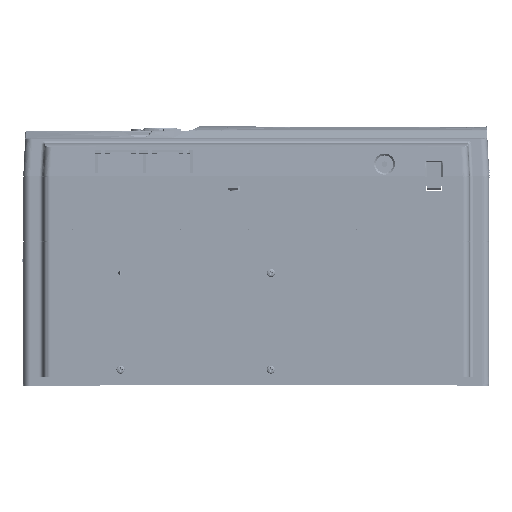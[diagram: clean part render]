
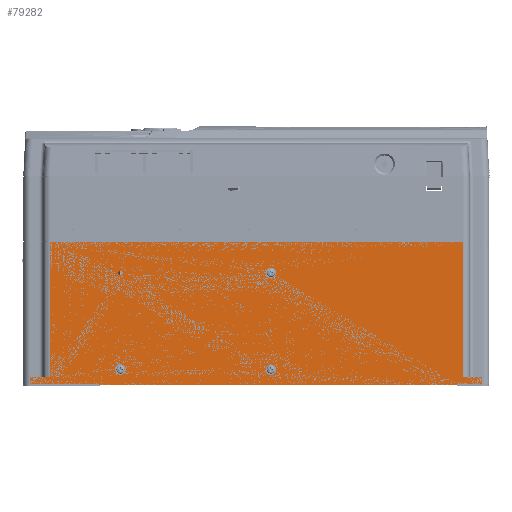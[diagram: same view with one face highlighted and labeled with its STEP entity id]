
A CAD part, left-side view. The second image highlights one B-rep face of the part: STEP entity #79282.
In plain terms, the highlighted planar face has unit normal (-1, 0, 0).
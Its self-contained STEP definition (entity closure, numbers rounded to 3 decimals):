
#76411 = VERTEX_POINT('',#76412);
#76412 = CARTESIAN_POINT('',(-125.,-61.,-194.));
#76419 = EDGE_CURVE('',#76411,#76420,#76422,.T.);
#76420 = VERTEX_POINT('',#76421);
#76421 = CARTESIAN_POINT('',(-125.,-61.,-134.95));
#76422 = LINE('',#76423,#76424);
#76423 = CARTESIAN_POINT('',(-125.,-61.,-194.));
#76424 = VECTOR('',#76425,1.);
#76425 = DIRECTION('',(0.,0.,1.));
#77268 = VERTEX_POINT('',#77269);
#77269 = CARTESIAN_POINT('',(-125.,-61.,172.55));
#77275 = EDGE_CURVE('',#77268,#77276,#77278,.T.);
#77276 = VERTEX_POINT('',#77277);
#77277 = CARTESIAN_POINT('',(-125.,-61.,194.));
#77278 = LINE('',#77279,#77280);
#77279 = CARTESIAN_POINT('',(-125.,-61.,172.55));
#77280 = VECTOR('',#77281,1.);
#77281 = DIRECTION('',(0.,0.,1.));
#79207 = EDGE_CURVE('',#79208,#79210,#79212,.T.);
#79208 = VERTEX_POINT('',#79209);
#79209 = CARTESIAN_POINT('',(-125.,-48.8,-119.));
#79210 = VERTEX_POINT('',#79211);
#79211 = CARTESIAN_POINT('',(-125.,-48.8,-114.));
#79212 = CIRCLE('',#79213,2.5);
#79213 = AXIS2_PLACEMENT_3D('',#79214,#79215,#79216);
#79214 = CARTESIAN_POINT('',(-125.,-48.8,-116.5));
#79215 = DIRECTION('',(1.,0.,0.));
#79216 = DIRECTION('',(0.,0.,-1.));
#79282 = ADVANCED_FACE('',(#79283,#79371,#79391,#79401,#79421),#79441,
  .T.);
#79283 = FACE_BOUND('',#79284,.F.);
#79284 = EDGE_LOOP('',(#79285,#79295,#79301,#79302,#79310,#79318,#79326,
    #79334,#79342,#79350,#79356,#79357,#79365));
#79285 = ORIENTED_EDGE('',*,*,#79286,.T.);
#79286 = EDGE_CURVE('',#79287,#79289,#79291,.T.);
#79287 = VERTEX_POINT('',#79288);
#79288 = CARTESIAN_POINT('',(-125.,-62.3,172.05));
#79289 = VERTEX_POINT('',#79290);
#79290 = CARTESIAN_POINT('',(-125.,-62.3,-134.95));
#79291 = LINE('',#79292,#79293);
#79292 = CARTESIAN_POINT('',(-125.,-62.3,172.05));
#79293 = VECTOR('',#79294,1.);
#79294 = DIRECTION('',(0.,0.,-1.));
#79295 = ORIENTED_EDGE('',*,*,#79296,.T.);
#79296 = EDGE_CURVE('',#79289,#76420,#79297,.T.);
#79297 = LINE('',#79298,#79299);
#79298 = CARTESIAN_POINT('',(-125.,-62.3,-134.95));
#79299 = VECTOR('',#79300,1.);
#79300 = DIRECTION('',(0.,1.,0.));
#79301 = ORIENTED_EDGE('',*,*,#76419,.F.);
#79302 = ORIENTED_EDGE('',*,*,#79303,.F.);
#79303 = EDGE_CURVE('',#79304,#76411,#79306,.T.);
#79304 = VERTEX_POINT('',#79305);
#79305 = CARTESIAN_POINT('',(-125.,-55.,-194.));
#79306 = LINE('',#79307,#79308);
#79307 = CARTESIAN_POINT('',(-125.,-55.,-194.));
#79308 = VECTOR('',#79309,1.);
#79309 = DIRECTION('',(0.,-1.,0.));
#79310 = ORIENTED_EDGE('',*,*,#79311,.F.);
#79311 = EDGE_CURVE('',#79312,#79304,#79314,.T.);
#79312 = VERTEX_POINT('',#79313);
#79313 = CARTESIAN_POINT('',(-125.,-55.,-177.));
#79314 = LINE('',#79315,#79316);
#79315 = CARTESIAN_POINT('',(-125.,-55.,-177.));
#79316 = VECTOR('',#79317,1.);
#79317 = DIRECTION('',(0.,0.,-1.));
#79318 = ORIENTED_EDGE('',*,*,#79319,.F.);
#79319 = EDGE_CURVE('',#79320,#79312,#79322,.T.);
#79320 = VERTEX_POINT('',#79321);
#79321 = CARTESIAN_POINT('',(-125.,61.,-177.));
#79322 = LINE('',#79323,#79324);
#79323 = CARTESIAN_POINT('',(-125.,61.,-177.));
#79324 = VECTOR('',#79325,1.);
#79325 = DIRECTION('',(0.,-1.,0.));
#79326 = ORIENTED_EDGE('',*,*,#79327,.T.);
#79327 = EDGE_CURVE('',#79320,#79328,#79330,.T.);
#79328 = VERTEX_POINT('',#79329);
#79329 = CARTESIAN_POINT('',(-125.,61.,177.));
#79330 = LINE('',#79331,#79332);
#79331 = CARTESIAN_POINT('',(-125.,61.,-177.));
#79332 = VECTOR('',#79333,1.);
#79333 = DIRECTION('',(0.,0.,1.));
#79334 = ORIENTED_EDGE('',*,*,#79335,.F.);
#79335 = EDGE_CURVE('',#79336,#79328,#79338,.T.);
#79336 = VERTEX_POINT('',#79337);
#79337 = CARTESIAN_POINT('',(-125.,-55.,177.));
#79338 = LINE('',#79339,#79340);
#79339 = CARTESIAN_POINT('',(-125.,-55.,177.));
#79340 = VECTOR('',#79341,1.);
#79341 = DIRECTION('',(0.,1.,0.));
#79342 = ORIENTED_EDGE('',*,*,#79343,.F.);
#79343 = EDGE_CURVE('',#79344,#79336,#79346,.T.);
#79344 = VERTEX_POINT('',#79345);
#79345 = CARTESIAN_POINT('',(-125.,-55.,194.));
#79346 = LINE('',#79347,#79348);
#79347 = CARTESIAN_POINT('',(-125.,-55.,194.));
#79348 = VECTOR('',#79349,1.);
#79349 = DIRECTION('',(0.,0.,-1.));
#79350 = ORIENTED_EDGE('',*,*,#79351,.T.);
#79351 = EDGE_CURVE('',#79344,#77276,#79352,.T.);
#79352 = LINE('',#79353,#79354);
#79353 = CARTESIAN_POINT('',(-125.,-55.,194.));
#79354 = VECTOR('',#79355,1.);
#79355 = DIRECTION('',(0.,-1.,0.));
#79356 = ORIENTED_EDGE('',*,*,#77275,.F.);
#79357 = ORIENTED_EDGE('',*,*,#79358,.T.);
#79358 = EDGE_CURVE('',#77268,#79359,#79361,.T.);
#79359 = VERTEX_POINT('',#79360);
#79360 = CARTESIAN_POINT('',(-125.,-61.8,172.55));
#79361 = LINE('',#79362,#79363);
#79362 = CARTESIAN_POINT('',(-125.,-61.,172.55));
#79363 = VECTOR('',#79364,1.);
#79364 = DIRECTION('',(0.,-1.,0.));
#79365 = ORIENTED_EDGE('',*,*,#79366,.F.);
#79366 = EDGE_CURVE('',#79287,#79359,#79367,.T.);
#79367 = LINE('',#79368,#79369);
#79368 = CARTESIAN_POINT('',(-125.,-62.3,172.05));
#79369 = VECTOR('',#79370,1.);
#79370 = DIRECTION('',(0.,0.707,0.707));
#79371 = FACE_BOUND('',#79372,.F.);
#79372 = EDGE_LOOP('',(#79373,#79384));
#79373 = ORIENTED_EDGE('',*,*,#79374,.F.);
#79374 = EDGE_CURVE('',#79375,#79377,#79379,.T.);
#79375 = VERTEX_POINT('',#79376);
#79376 = CARTESIAN_POINT('',(-125.,34.2,-114.5));
#79377 = VERTEX_POINT('',#79378);
#79378 = CARTESIAN_POINT('',(-125.,34.2,-118.5));
#79379 = CIRCLE('',#79380,2.);
#79380 = AXIS2_PLACEMENT_3D('',#79381,#79382,#79383);
#79381 = CARTESIAN_POINT('',(-125.,34.2,-116.5));
#79382 = DIRECTION('',(1.,0.,-0.));
#79383 = DIRECTION('',(0.,0.,1.));
#79384 = ORIENTED_EDGE('',*,*,#79385,.F.);
#79385 = EDGE_CURVE('',#79377,#79375,#79386,.T.);
#79386 = CIRCLE('',#79387,2.);
#79387 = AXIS2_PLACEMENT_3D('',#79388,#79389,#79390);
#79388 = CARTESIAN_POINT('',(-125.,34.2,-116.5));
#79389 = DIRECTION('',(1.,0.,0.));
#79390 = DIRECTION('',(0.,0.,-1.));
#79391 = FACE_BOUND('',#79392,.F.);
#79392 = EDGE_LOOP('',(#79393,#79394));
#79393 = ORIENTED_EDGE('',*,*,#79207,.F.);
#79394 = ORIENTED_EDGE('',*,*,#79395,.F.);
#79395 = EDGE_CURVE('',#79210,#79208,#79396,.T.);
#79396 = CIRCLE('',#79397,2.5);
#79397 = AXIS2_PLACEMENT_3D('',#79398,#79399,#79400);
#79398 = CARTESIAN_POINT('',(-125.,-48.8,-116.5));
#79399 = DIRECTION('',(1.,0.,-0.));
#79400 = DIRECTION('',(0.,0.,1.));
#79401 = FACE_BOUND('',#79402,.F.);
#79402 = EDGE_LOOP('',(#79403,#79414));
#79403 = ORIENTED_EDGE('',*,*,#79404,.F.);
#79404 = EDGE_CURVE('',#79405,#79407,#79409,.T.);
#79405 = VERTEX_POINT('',#79406);
#79406 = CARTESIAN_POINT('',(-125.,-48.8,10.));
#79407 = VERTEX_POINT('',#79408);
#79408 = CARTESIAN_POINT('',(-125.,-48.8,15.));
#79409 = CIRCLE('',#79410,2.5);
#79410 = AXIS2_PLACEMENT_3D('',#79411,#79412,#79413);
#79411 = CARTESIAN_POINT('',(-125.,-48.8,12.5));
#79412 = DIRECTION('',(1.,0.,0.));
#79413 = DIRECTION('',(0.,0.,-1.));
#79414 = ORIENTED_EDGE('',*,*,#79415,.F.);
#79415 = EDGE_CURVE('',#79407,#79405,#79416,.T.);
#79416 = CIRCLE('',#79417,2.5);
#79417 = AXIS2_PLACEMENT_3D('',#79418,#79419,#79420);
#79418 = CARTESIAN_POINT('',(-125.,-48.8,12.5));
#79419 = DIRECTION('',(1.,0.,-0.));
#79420 = DIRECTION('',(0.,0.,1.));
#79421 = FACE_BOUND('',#79422,.F.);
#79422 = EDGE_LOOP('',(#79423,#79434));
#79423 = ORIENTED_EDGE('',*,*,#79424,.F.);
#79424 = EDGE_CURVE('',#79425,#79427,#79429,.T.);
#79425 = VERTEX_POINT('',#79426);
#79426 = CARTESIAN_POINT('',(-125.,34.2,14.5));
#79427 = VERTEX_POINT('',#79428);
#79428 = CARTESIAN_POINT('',(-125.,34.2,10.5));
#79429 = CIRCLE('',#79430,2.);
#79430 = AXIS2_PLACEMENT_3D('',#79431,#79432,#79433);
#79431 = CARTESIAN_POINT('',(-125.,34.2,12.5));
#79432 = DIRECTION('',(1.,0.,-0.));
#79433 = DIRECTION('',(0.,0.,1.));
#79434 = ORIENTED_EDGE('',*,*,#79435,.F.);
#79435 = EDGE_CURVE('',#79427,#79425,#79436,.T.);
#79436 = CIRCLE('',#79437,2.);
#79437 = AXIS2_PLACEMENT_3D('',#79438,#79439,#79440);
#79438 = CARTESIAN_POINT('',(-125.,34.2,12.5));
#79439 = DIRECTION('',(1.,0.,0.));
#79440 = DIRECTION('',(0.,0.,-1.));
#79441 = PLANE('',#79442);
#79442 = AXIS2_PLACEMENT_3D('',#79443,#79444,#79445);
#79443 = CARTESIAN_POINT('',(-125.,-61.,-200.));
#79444 = DIRECTION('',(-1.,0.,0.));
#79445 = DIRECTION('',(0.,0.,1.));
